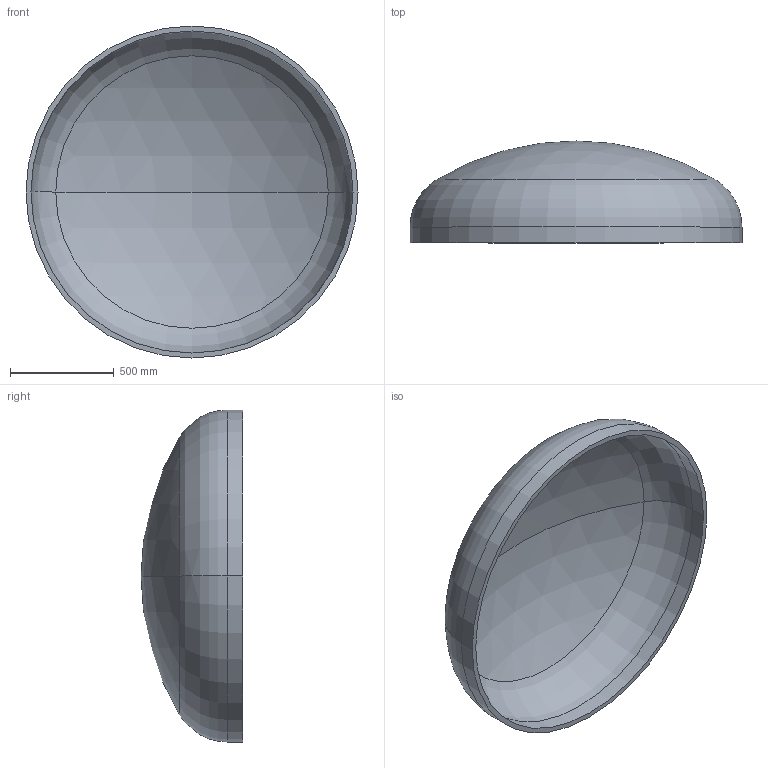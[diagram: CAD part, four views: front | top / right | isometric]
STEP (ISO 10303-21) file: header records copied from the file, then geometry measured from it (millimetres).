
FILE_DESCRIPTION (( 'STEP AP203' ), '1' );
FILE_NAME ('DIN 28013 Korbbogenform_-_Boden DIN 28013 - 1600 x 75 - I - s=24.step', '2016-07-01T11:09:41', ( '' ), ( '' ), 'SwSTEP 2.0', 'SolidWorks 2013', '' );
FILE_SCHEMA (( 'CONFIG_CONTROL_DESIGN' ));
Length unit declared in the file: millimetre
Products named in the file (1): DIN 28013 Korbbogenform_-_Boden DIN 28013 - 1600 x 75 - I - s=24
Bounding box: 1600 x 490.59 x 1600 mm (x, y, z)
Volume: 74360049.2 mm3; surface area: 6316702.6 mm2
Topology: 1 solids, 1 shells, 13 faces, 24 edges, 14 vertices
Faces by surface type: torus 4, cylinder 4, sphere 4, plane 1
Entity records: 407 total; most frequent: DIRECTION 72, CARTESIAN_POINT 52, ORIENTED_EDGE 48, AXIS2_PLACEMENT_3D 34, EDGE_CURVE 24, CIRCLE 20, EDGE_LOOP 14, VERTEX_POINT 14
